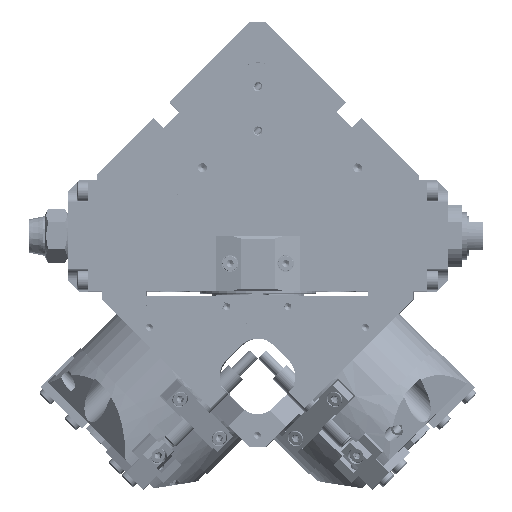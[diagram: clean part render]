
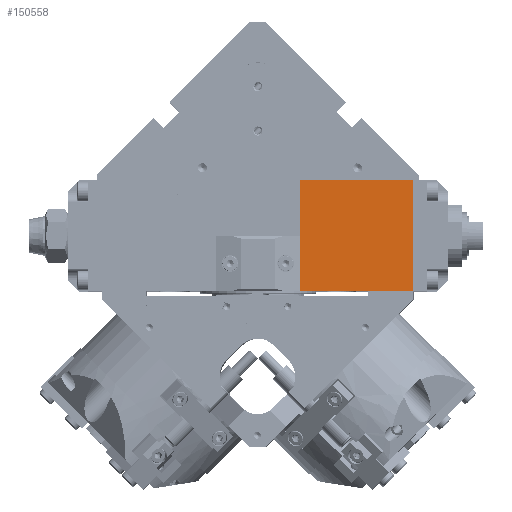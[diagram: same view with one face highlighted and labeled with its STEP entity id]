
A CAD part, top view. The second image highlights one B-rep face of the part: STEP entity #150558.
In plain terms, the highlighted planar face has unit normal (0, 0, 1).
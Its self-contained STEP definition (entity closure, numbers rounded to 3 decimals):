
#7416 = DIRECTION ( 'NONE',  ( 0., 1., 0. ) ) ;
#9039 = EDGE_CURVE ( 'NONE', #61322, #80714, #41551, .T. ) ;
#10035 = CARTESIAN_POINT ( 'NONE',  ( 45.887, 23.24, 37. ) ) ;
#12611 = VECTOR ( 'NONE', #72592, 1000. ) ;
#18008 = PLANE ( 'NONE',  #95360 ) ;
#25573 = ORIENTED_EDGE ( 'NONE', *, *, #154674, .T. ) ;
#32334 = CARTESIAN_POINT ( 'NONE',  ( 45.887, -16.76, 37. ) ) ;
#40838 = VECTOR ( 'NONE', #69431, 1000. ) ;
#41551 = LINE ( 'NONE', #53177, #157697 ) ;
#49510 = ORIENTED_EDGE ( 'NONE', *, *, #194445, .F. ) ;
#52943 = LINE ( 'NONE', #117675, #12611 ) ;
#53177 = CARTESIAN_POINT ( 'NONE',  ( 45.887, -16.76, 37. ) ) ;
#54136 = CARTESIAN_POINT ( 'NONE',  ( 4.887, -16.76, 37. ) ) ;
#56537 = ORIENTED_EDGE ( 'NONE', *, *, #142047, .F. ) ;
#60643 = LINE ( 'NONE', #144447, #136481 ) ;
#61101 = ORIENTED_EDGE ( 'NONE', *, *, #9039, .T. ) ;
#61322 = VERTEX_POINT ( 'NONE', #32334 ) ;
#61646 = VERTEX_POINT ( 'NONE', #87387 ) ;
#62249 = VERTEX_POINT ( 'NONE', #117538 ) ;
#69431 = DIRECTION ( 'NONE',  ( 0., 1., 0. ) ) ;
#72592 = DIRECTION ( 'NONE',  ( 1., 0., 0. ) ) ;
#79149 = CARTESIAN_POINT ( 'NONE',  ( 4.887, -16.76, 37. ) ) ;
#80714 = VERTEX_POINT ( 'NONE', #10035 ) ;
#85033 = FACE_OUTER_BOUND ( 'NONE', #190309, .T. ) ;
#86078 = LINE ( 'NONE', #54136, #40838 ) ;
#87387 = CARTESIAN_POINT ( 'NONE',  ( 4.887, -16.76, 37. ) ) ;
#94381 = DIRECTION ( 'NONE',  ( 1., 0., 0. ) ) ;
#95360 = AXIS2_PLACEMENT_3D ( 'NONE', #79149, #185027, #94381 ) ;
#117538 = CARTESIAN_POINT ( 'NONE',  ( 4.887, 23.24, 37. ) ) ;
#117675 = CARTESIAN_POINT ( 'NONE',  ( 4.887, 23.24, 37. ) ) ;
#136481 = VECTOR ( 'NONE', #175021, 1000. ) ;
#142047 = EDGE_CURVE ( 'NONE', #61646, #62249, #86078, .T. ) ;
#144447 = CARTESIAN_POINT ( 'NONE',  ( 4.887, -16.76, 37. ) ) ;
#150558 = ADVANCED_FACE ( 'NONE', ( #85033 ), #18008, .T. ) ;
#154674 = EDGE_CURVE ( 'NONE', #61646, #61322, #60643, .T. ) ;
#157697 = VECTOR ( 'NONE', #7416, 1000. ) ;
#175021 = DIRECTION ( 'NONE',  ( 1., 0., 0. ) ) ;
#185027 = DIRECTION ( 'NONE',  ( 0., 0., 1. ) ) ;
#190309 = EDGE_LOOP ( 'NONE', ( #49510, #56537, #25573, #61101 ) ) ;
#194445 = EDGE_CURVE ( 'NONE', #62249, #80714, #52943, .T. ) ;
